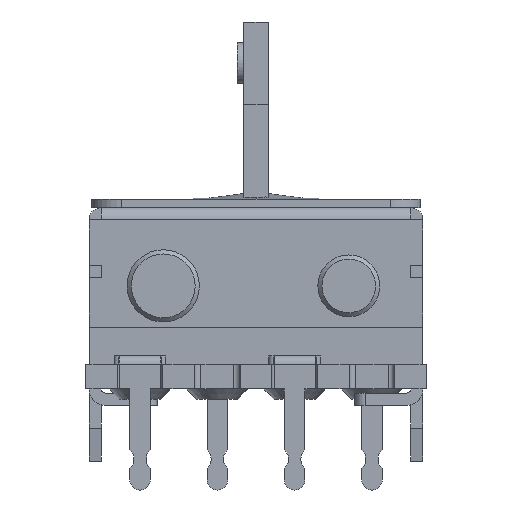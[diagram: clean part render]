
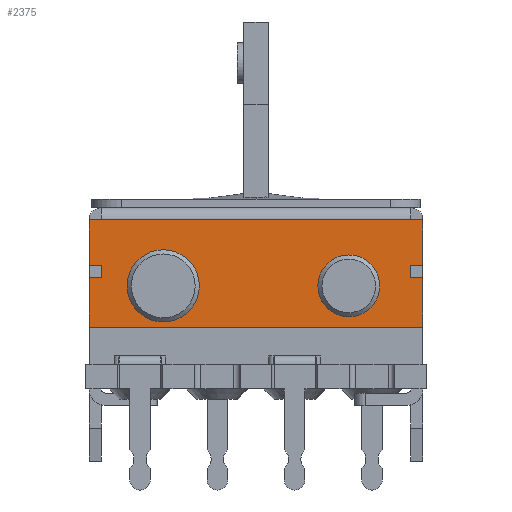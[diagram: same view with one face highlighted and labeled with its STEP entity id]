
A CAD part, left-side view. The second image highlights one B-rep face of the part: STEP entity #2375.
In plain terms, the highlighted planar face has unit normal (-1, 0, 0).
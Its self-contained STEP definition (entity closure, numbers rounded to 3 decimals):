
#2175 = VERTEX_POINT('',#2176);
#2176 = CARTESIAN_POINT('',(-63.6,7.5,-0.6));
#2185 = VERTEX_POINT('',#2186);
#2186 = CARTESIAN_POINT('',(-63.6,-7.5,-0.6));
#2193 = EDGE_CURVE('',#2175,#2185,#2194,.T.);
#2194 = LINE('',#2195,#2196);
#2195 = CARTESIAN_POINT('',(-63.6,7.5,-0.6));
#2196 = VECTOR('',#2197,1.);
#2197 = DIRECTION('',(0.,-1.,0.));
#2375 = ADVANCED_FACE('',(#2376,#2481,#2492),#2503,.T.);
#2376 = FACE_BOUND('',#2377,.T.);
#2377 = EDGE_LOOP('',(#2378,#2379,#2387,#2395,#2403,#2411,#2419,#2427,
    #2435,#2443,#2451,#2459,#2467,#2475));
#2378 = ORIENTED_EDGE('',*,*,#2193,.F.);
#2379 = ORIENTED_EDGE('',*,*,#2380,.T.);
#2380 = EDGE_CURVE('',#2175,#2381,#2383,.T.);
#2381 = VERTEX_POINT('',#2382);
#2382 = CARTESIAN_POINT('',(-63.6,8.1,-0.6));
#2383 = LINE('',#2384,#2385);
#2384 = CARTESIAN_POINT('',(-63.6,8.8,-0.6));
#2385 = VECTOR('',#2386,1.);
#2386 = DIRECTION('',(0.,1.,0.));
#2387 = ORIENTED_EDGE('',*,*,#2388,.F.);
#2388 = EDGE_CURVE('',#2389,#2381,#2391,.T.);
#2389 = VERTEX_POINT('',#2390);
#2390 = CARTESIAN_POINT('',(-63.6,8.1,-2.8));
#2391 = LINE('',#2392,#2393);
#2392 = CARTESIAN_POINT('',(-63.6,8.1,-5.8));
#2393 = VECTOR('',#2394,1.);
#2394 = DIRECTION('',(0.,0.,1.));
#2395 = ORIENTED_EDGE('',*,*,#2396,.F.);
#2396 = EDGE_CURVE('',#2397,#2389,#2399,.T.);
#2397 = VERTEX_POINT('',#2398);
#2398 = CARTESIAN_POINT('',(-63.6,7.5,-2.8));
#2399 = LINE('',#2400,#2401);
#2400 = CARTESIAN_POINT('',(-63.6,8.8,-2.8));
#2401 = VECTOR('',#2402,1.);
#2402 = DIRECTION('',(0.,1.,0.));
#2403 = ORIENTED_EDGE('',*,*,#2404,.F.);
#2404 = EDGE_CURVE('',#2405,#2397,#2407,.T.);
#2405 = VERTEX_POINT('',#2406);
#2406 = CARTESIAN_POINT('',(-63.6,7.5,-3.4));
#2407 = LINE('',#2408,#2409);
#2408 = CARTESIAN_POINT('',(-63.6,7.5,-4.6));
#2409 = VECTOR('',#2410,1.);
#2410 = DIRECTION('',(0.,0.,1.));
#2411 = ORIENTED_EDGE('',*,*,#2412,.T.);
#2412 = EDGE_CURVE('',#2405,#2413,#2415,.T.);
#2413 = VERTEX_POINT('',#2414);
#2414 = CARTESIAN_POINT('',(-63.6,8.1,-3.4));
#2415 = LINE('',#2416,#2417);
#2416 = CARTESIAN_POINT('',(-63.6,8.8,-3.4));
#2417 = VECTOR('',#2418,1.);
#2418 = DIRECTION('',(0.,1.,0.));
#2419 = ORIENTED_EDGE('',*,*,#2420,.F.);
#2420 = EDGE_CURVE('',#2421,#2413,#2423,.T.);
#2421 = VERTEX_POINT('',#2422);
#2422 = CARTESIAN_POINT('',(-63.6,8.1,-5.8));
#2423 = LINE('',#2424,#2425);
#2424 = CARTESIAN_POINT('',(-63.6,8.1,-5.8));
#2425 = VECTOR('',#2426,1.);
#2426 = DIRECTION('',(0.,0.,1.));
#2427 = ORIENTED_EDGE('',*,*,#2428,.T.);
#2428 = EDGE_CURVE('',#2421,#2429,#2431,.T.);
#2429 = VERTEX_POINT('',#2430);
#2430 = CARTESIAN_POINT('',(-63.6,-8.1,-5.8));
#2431 = LINE('',#2432,#2433);
#2432 = CARTESIAN_POINT('',(-63.6,8.1,-5.8));
#2433 = VECTOR('',#2434,1.);
#2434 = DIRECTION('',(0.,-1.,0.));
#2435 = ORIENTED_EDGE('',*,*,#2436,.T.);
#2436 = EDGE_CURVE('',#2429,#2437,#2439,.T.);
#2437 = VERTEX_POINT('',#2438);
#2438 = CARTESIAN_POINT('',(-63.6,-8.1,-3.4));
#2439 = LINE('',#2440,#2441);
#2440 = CARTESIAN_POINT('',(-63.6,-8.1,-5.8));
#2441 = VECTOR('',#2442,1.);
#2442 = DIRECTION('',(0.,0.,1.));
#2443 = ORIENTED_EDGE('',*,*,#2444,.T.);
#2444 = EDGE_CURVE('',#2437,#2445,#2447,.T.);
#2445 = VERTEX_POINT('',#2446);
#2446 = CARTESIAN_POINT('',(-63.6,-7.5,-3.4));
#2447 = LINE('',#2448,#2449);
#2448 = CARTESIAN_POINT('',(-63.6,0.3,-3.4));
#2449 = VECTOR('',#2450,1.);
#2450 = DIRECTION('',(0.,1.,0.));
#2451 = ORIENTED_EDGE('',*,*,#2452,.T.);
#2452 = EDGE_CURVE('',#2445,#2453,#2455,.T.);
#2453 = VERTEX_POINT('',#2454);
#2454 = CARTESIAN_POINT('',(-63.6,-7.5,-2.8));
#2455 = LINE('',#2456,#2457);
#2456 = CARTESIAN_POINT('',(-63.6,-7.5,-4.6));
#2457 = VECTOR('',#2458,1.);
#2458 = DIRECTION('',(0.,0.,1.));
#2459 = ORIENTED_EDGE('',*,*,#2460,.F.);
#2460 = EDGE_CURVE('',#2461,#2453,#2463,.T.);
#2461 = VERTEX_POINT('',#2462);
#2462 = CARTESIAN_POINT('',(-63.6,-8.1,-2.8));
#2463 = LINE('',#2464,#2465);
#2464 = CARTESIAN_POINT('',(-63.6,0.3,-2.8));
#2465 = VECTOR('',#2466,1.);
#2466 = DIRECTION('',(0.,1.,0.));
#2467 = ORIENTED_EDGE('',*,*,#2468,.T.);
#2468 = EDGE_CURVE('',#2461,#2469,#2471,.T.);
#2469 = VERTEX_POINT('',#2470);
#2470 = CARTESIAN_POINT('',(-63.6,-8.1,-0.6));
#2471 = LINE('',#2472,#2473);
#2472 = CARTESIAN_POINT('',(-63.6,-8.1,-5.8));
#2473 = VECTOR('',#2474,1.);
#2474 = DIRECTION('',(0.,0.,1.));
#2475 = ORIENTED_EDGE('',*,*,#2476,.T.);
#2476 = EDGE_CURVE('',#2469,#2185,#2477,.T.);
#2477 = LINE('',#2478,#2479);
#2478 = CARTESIAN_POINT('',(-63.6,0.3,-0.6));
#2479 = VECTOR('',#2480,1.);
#2480 = DIRECTION('',(0.,1.,0.));
#2481 = FACE_BOUND('',#2482,.T.);
#2482 = EDGE_LOOP('',(#2483));
#2483 = ORIENTED_EDGE('',*,*,#2484,.T.);
#2484 = EDGE_CURVE('',#2485,#2485,#2487,.T.);
#2485 = VERTEX_POINT('',#2486);
#2486 = CARTESIAN_POINT('',(-63.6,-4.5,-5.3));
#2487 = CIRCLE('',#2488,1.5);
#2488 = AXIS2_PLACEMENT_3D('',#2489,#2490,#2491);
#2489 = CARTESIAN_POINT('',(-63.6,-4.5,-3.8));
#2490 = DIRECTION('',(1.,-0.,0.));
#2491 = DIRECTION('',(0.,0.,-1.));
#2492 = FACE_BOUND('',#2493,.T.);
#2493 = EDGE_LOOP('',(#2494));
#2494 = ORIENTED_EDGE('',*,*,#2495,.T.);
#2495 = EDGE_CURVE('',#2496,#2496,#2498,.T.);
#2496 = VERTEX_POINT('',#2497);
#2497 = CARTESIAN_POINT('',(-63.6,4.5,-5.55));
#2498 = CIRCLE('',#2499,1.75);
#2499 = AXIS2_PLACEMENT_3D('',#2500,#2501,#2502);
#2500 = CARTESIAN_POINT('',(-63.6,4.5,-3.8));
#2501 = DIRECTION('',(1.,-0.,0.));
#2502 = DIRECTION('',(0.,0.,-1.));
#2503 = PLANE('',#2504);
#2504 = AXIS2_PLACEMENT_3D('',#2505,#2506,#2507);
#2505 = CARTESIAN_POINT('',(-63.6,8.1,-5.8));
#2506 = DIRECTION('',(-1.,0.,0.));
#2507 = DIRECTION('',(0.,0.,1.));
